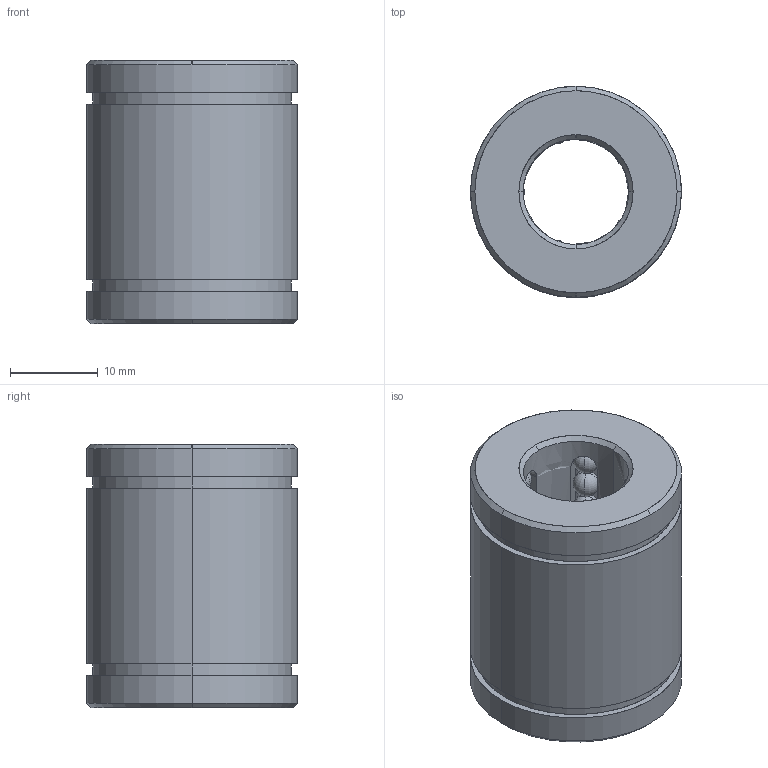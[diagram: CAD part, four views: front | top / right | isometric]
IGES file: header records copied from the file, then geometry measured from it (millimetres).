
Start section: START RECORD GO HERE.
Global section: file name: B8031230.igs; native system: DASSAULT SYSTEMES CATIA V5 R20 - www.3ds.com; preprocessor: CATIA Version 5 Release 20 ; author: Utente; organization: NB04-ASUS; date: 20200419.161909; units: millimetre
Bounding box: 24 x 24 x 30 mm (x, y, z)
Surface area: 6156.3 mm2 (no closed solid volume)
Topology: 0 solids, 0 shells, 219 faces, 918 edges, 598 vertices
Faces by surface type: revolution 198, plane 21
